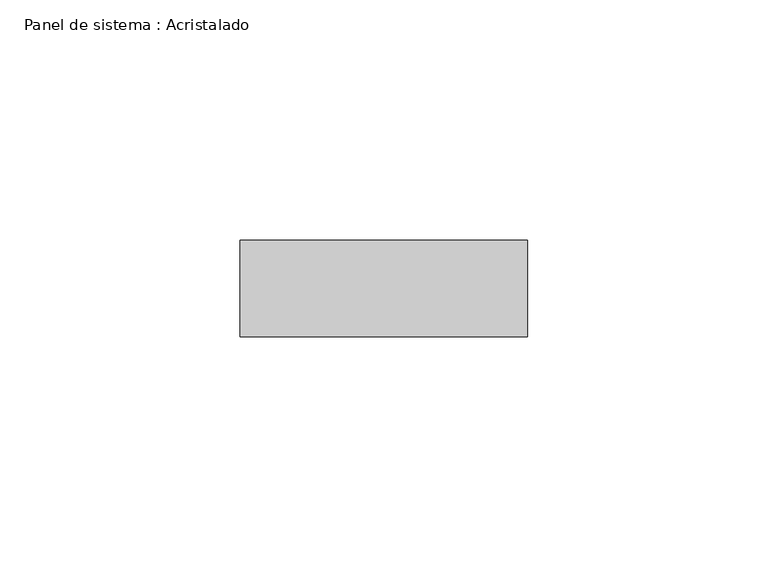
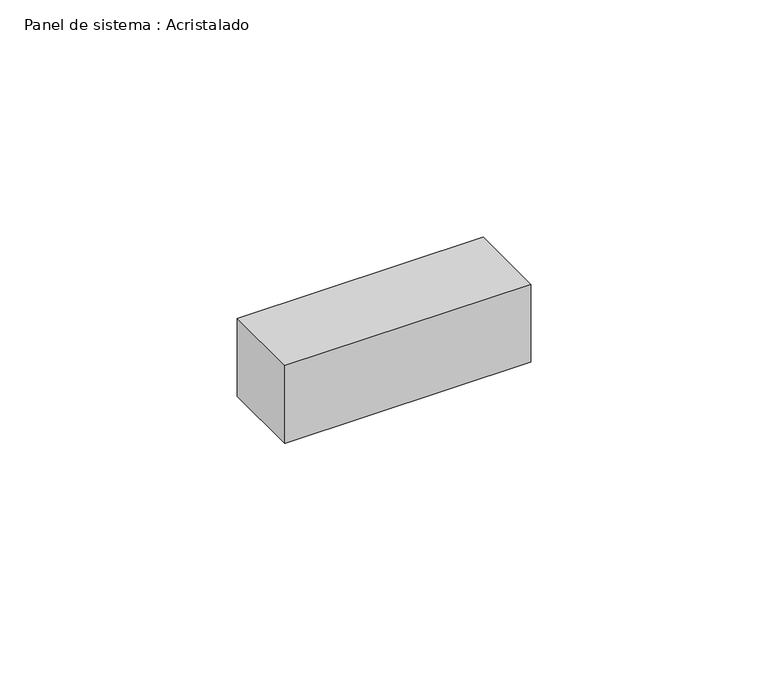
"""IFC4 building model written with IfcOpenShell, lengths in millimetres: plate geometry, Panel de sistema : Acristalado."""

from ifc_helpers import new_model, si_unit, origin, origin_with_axes, place, context, project, spatial, polyline, outline, extrude, source, transform, mapped, element, save


def panel_de_sistema_acristalado_fcdc0aaa(model_context):
    return source(origin(), model_context, "Body", "SweptSolid", [
        extrude(outline(polyline([(29.8740406, -10.0), (-29.8740406, -10.0), (-29.8740406, 10.0), (29.8740406, 10.0), (29.8740406, -10.0)])), origin_with_axes(), (0.0, 0.0, 1.0), 20.0),
    ])


if __name__ == "__main__":
    model = new_model("IFC4")
    model_context = context("Model", 3, world=origin())
    ifc_project = project(units=[si_unit("LENGTHUNIT", "METRE", prefix="MILLI")], contexts=[model_context])
    site = spatial("IfcSite", under=ifc_project)
    building = spatial("IfcBuilding", under=site)
    placement = place(None, origin())
    panel_de_sistema_acristalado_shape = panel_de_sistema_acristalado_fcdc0aaa(model_context)
    element("IfcPlate", 1, ObjectType="Panel de sistema : Acristalado", at=placement, inside=building, context=model_context, shape_type="MappedRepresentation", body=[
        mapped(panel_de_sistema_acristalado_shape, transform((0.0, 0.0, 0.0), x_axis=(1.0, 0.0, 0.0), y_axis=(0.0, 1.0, 0.0), z_axis=(0.0, 0.0, 1.0))),
    ])
    save(model, "model.ifc")
